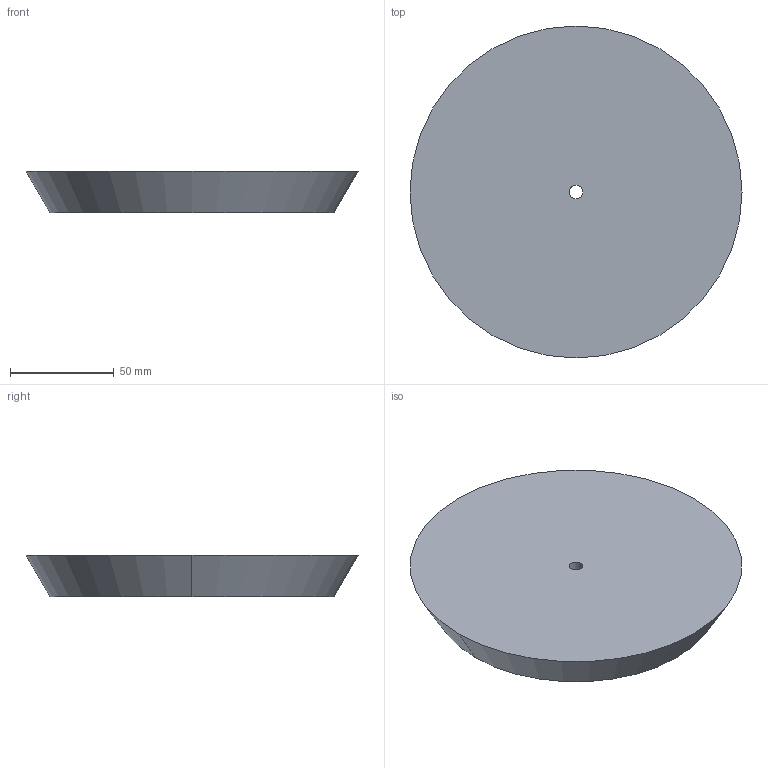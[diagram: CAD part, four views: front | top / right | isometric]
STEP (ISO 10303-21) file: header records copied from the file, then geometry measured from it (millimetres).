
FILE_DESCRIPTION(('CATIA V5 STEP Exchange'),'2;1');
FILE_NAME('C:\Users\andres.garcia\OneDrive - IQS\ASIGNATURAS\DAO\Controles\2223\c0\c1-ROURA_Laia-tapon.stp','2023-02-03T08:22:06+00:00',('none'),('none'),'CATIA Version 5-6 Release 2013 SP6','CATIA V5 STEP AP203','none');
FILE_SCHEMA(('CONFIG_CONTROL_DESIGN'));
Length unit declared in the file: millimetre
Products named in the file (1): c1-ROURA_Laia-tapon
Bounding box: 160 x 160 x 20 mm (x, y, z)
Volume: 346211.1 mm3; surface area: 45939.7 mm2
Topology: 1 solids, 1 shells, 6 faces, 12 edges, 8 vertices
Faces by surface type: cylinder 2, plane 2, cone 2
Entity records: 196 total; most frequent: CARTESIAN_POINT 26, ORIENTED_EDGE 24, DIRECTION 22, AXIS2_PLACEMENT_3D 14, EDGE_CURVE 12, CIRCLE 8, EDGE_LOOP 8, VERTEX_POINT 8
